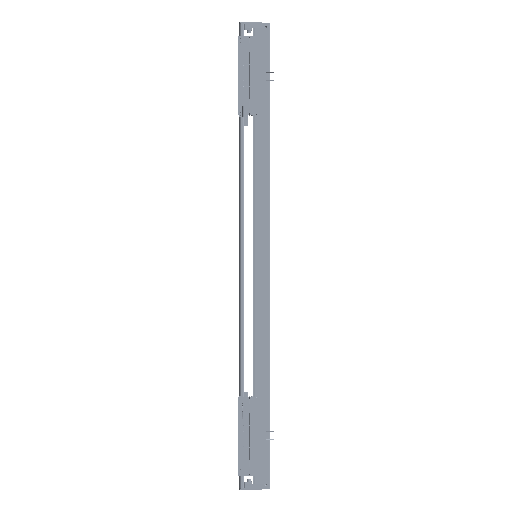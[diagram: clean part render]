
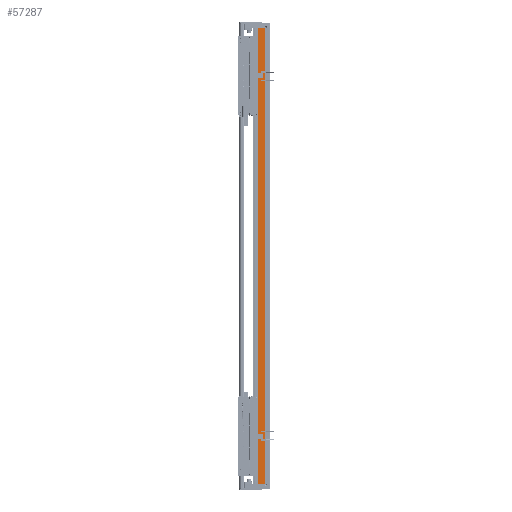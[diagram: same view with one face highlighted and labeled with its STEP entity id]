
A CAD part, left-side view. The second image highlights one B-rep face of the part: STEP entity #57287.
In plain terms, the highlighted planar face has unit normal (-1, 0, 0).
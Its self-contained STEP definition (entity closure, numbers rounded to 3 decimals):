
#6860 = ORIENTED_EDGE ( 'NONE', *, *, #119000, .F. ) ;
#9959 = DIRECTION ( 'NONE',  ( 0., 1., 0. ) ) ;
#13309 = EDGE_CURVE ( 'NONE', #23532, #119400, #136677, .T. ) ;
#13816 = CARTESIAN_POINT ( 'NONE',  ( -97.5, 36.95, 720. ) ) ;
#13898 = VECTOR ( 'NONE', #50400, 1000. ) ;
#13991 = VERTEX_POINT ( 'NONE', #118111 ) ;
#20076 = EDGE_LOOP ( 'NONE', ( #92805, #143884, #6860, #131152 ) ) ;
#21584 = LINE ( 'NONE', #71199, #151372 ) ;
#21948 = LINE ( 'NONE', #71565, #160855 ) ;
#23532 = VERTEX_POINT ( 'NONE', #52909 ) ;
#32783 = DIRECTION ( 'NONE',  ( 1., 0., 0. ) ) ;
#34587 = DIRECTION ( 'NONE',  ( 0., 0., -1. ) ) ;
#39000 = EDGE_CURVE ( 'NONE', #13991, #119400, #21584, .T. ) ;
#43829 = VECTOR ( 'NONE', #113096, 1000. ) ;
#45769 = PLANE ( 'NONE',  #116568 ) ;
#47363 = FACE_OUTER_BOUND ( 'NONE', #20076, .T. ) ;
#50400 = DIRECTION ( 'NONE',  ( 0., -1., 0. ) ) ;
#52909 = CARTESIAN_POINT ( 'NONE',  ( -97.5, 36.95, -720. ) ) ;
#57287 = ADVANCED_FACE ( 'NONE', ( #47363 ), #45769, .F. ) ;
#71199 = CARTESIAN_POINT ( 'NONE',  ( -97.5, 14.45, 720. ) ) ;
#71565 = CARTESIAN_POINT ( 'NONE',  ( -97.5, 36.95, 720. ) ) ;
#88648 = LINE ( 'NONE', #13816, #43829 ) ;
#92805 = ORIENTED_EDGE ( 'NONE', *, *, #13309, .T. ) ;
#104032 = CARTESIAN_POINT ( 'NONE',  ( -97.5, 14.45, -720. ) ) ;
#106645 = DIRECTION ( 'NONE',  ( 0., -1., 0. ) ) ;
#113096 = DIRECTION ( 'NONE',  ( 0., 0., -1. ) ) ;
#116568 = AXIS2_PLACEMENT_3D ( 'NONE', #145822, #32783, #9959 ) ;
#118111 = CARTESIAN_POINT ( 'NONE',  ( -97.5, 14.45, 720. ) ) ;
#119000 = EDGE_CURVE ( 'NONE', #119076, #13991, #21948, .T. ) ;
#119076 = VERTEX_POINT ( 'NONE', #145621 ) ;
#119400 = VERTEX_POINT ( 'NONE', #104032 ) ;
#131152 = ORIENTED_EDGE ( 'NONE', *, *, #137906, .T. ) ;
#136677 = LINE ( 'NONE', #160287, #13898 ) ;
#137906 = EDGE_CURVE ( 'NONE', #119076, #23532, #88648, .T. ) ;
#143884 = ORIENTED_EDGE ( 'NONE', *, *, #39000, .F. ) ;
#145621 = CARTESIAN_POINT ( 'NONE',  ( -97.5, 36.95, 720. ) ) ;
#145822 = CARTESIAN_POINT ( 'NONE',  ( -97.5, 36.95, 720. ) ) ;
#151372 = VECTOR ( 'NONE', #34587, 1000. ) ;
#160287 = CARTESIAN_POINT ( 'NONE',  ( -97.5, 36.95, -720. ) ) ;
#160855 = VECTOR ( 'NONE', #106645, 1000. ) ;
